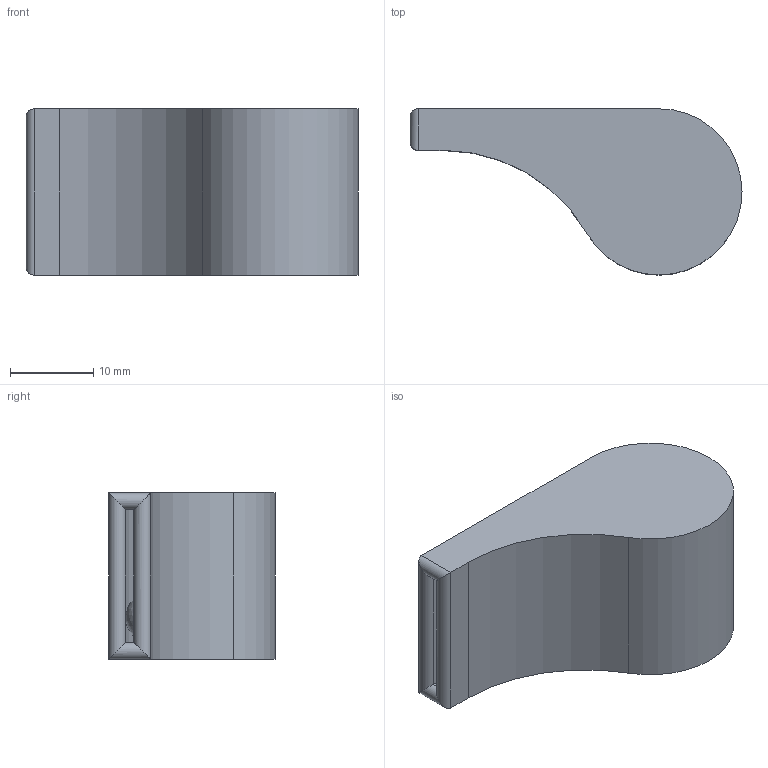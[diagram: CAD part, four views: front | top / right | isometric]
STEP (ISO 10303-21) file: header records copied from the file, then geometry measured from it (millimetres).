
FILE_DESCRIPTION(/* description */ (''),/* implementation_level */ '2;1');
FILE_NAME(/* name */ 'E:/fablab/3d printing and scanning week/whistle.step',/* time_stamp */ '2020-10-06T11:46:22+05:00',/* author */ (''),/* organization */ (''),/* preprocessor_version */ 'ST-DEVELOPER v18.1',/* originating_system */ 'Autodesk Translation Framework v9.3.0.1241',/* authorisation */ '');
FILE_SCHEMA (('AUTOMOTIVE_DESIGN { 1 0 10303 214 3 1 1 }'));
Length unit declared in the file: millimetre
Products named in the file (2): whistle; ball
Assembly tree (1 placements, depth 2):
  whistle
    ball
Bounding box: 39.97 x 20 x 20 mm (x, y, z)
Volume: 5850.3 mm3; surface area: 5134.6 mm2
Topology: 2 solids, 2 shells, 20 faces, 51 edges, 32 vertices
Faces by surface type: plane 11, cylinder 8, sphere 1
Entity records: 652 total; most frequent: DIRECTION 112, CARTESIAN_POINT 104, ORIENTED_EDGE 98, EDGE_CURVE 49, AXIS2_PLACEMENT_3D 40, LINE 32, VECTOR 32, VERTEX_POINT 32
